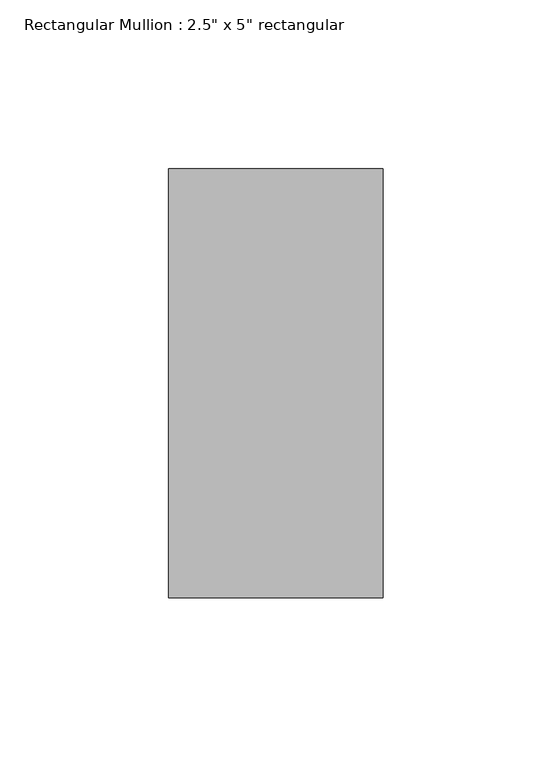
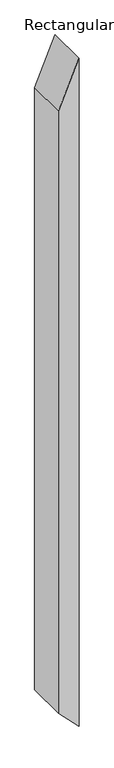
"""IFC4 building model written with IfcOpenShell, lengths in millimetres: member geometry."""

from ifc_helpers import new_model, si_unit, frame, origin, place, context, project, spatial, polyline, outline, extrude, source, transform, mapped, element, save


def member_bf957473(model_context):
    return source(origin(), model_context, "Body", "SweptSolid", [
        extrude(outline(polyline([(0.0, 0.0), (-150.0761281, -63.5), (-2120.3517853, -63.5), (-2185.8060871, 0.0), (0.0, 0.0)])), frame((0.0, -63.5, 0.0), z_axis=(0.0, 1.0, 0.0), x_axis=(0.0, 0.0, 1.0)), (0.0, 0.0, 1.0), 127.0),
    ])


if __name__ == "__main__":
    model = new_model("IFC4")
    model_context = context("Model", 3, world=origin())
    ifc_project = project(units=[si_unit("LENGTHUNIT", "METRE", prefix="MILLI")], contexts=[model_context])
    site = spatial("IfcSite", under=ifc_project)
    building = spatial("IfcBuilding", under=site)
    placement = place(None, origin())
    member_shape = member_bf957473(model_context)
    element("IfcMember", 1, ObjectType="Rectangular Mullion : 2.5\" x 5\" rectangular", at=placement, inside=building, context=model_context, shape_type="MappedRepresentation", body=[
        mapped(member_shape, transform((0.0, 0.0, 0.0), x_axis=(1.0, 0.0, 0.0), y_axis=(0.0, 1.0, 0.0), z_axis=(0.0, 0.0, 1.0))),
    ])
    save(model, "model.ifc")
